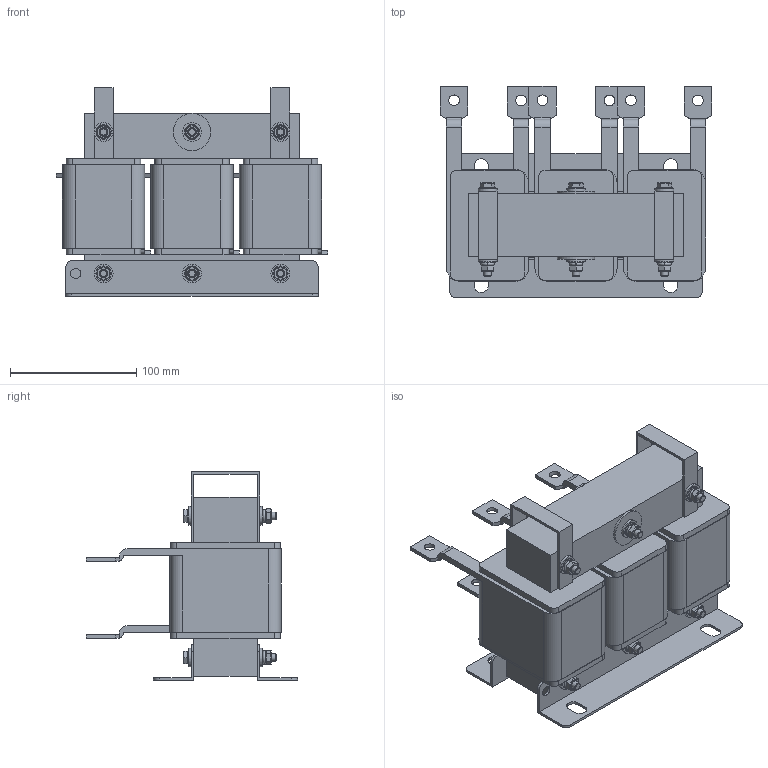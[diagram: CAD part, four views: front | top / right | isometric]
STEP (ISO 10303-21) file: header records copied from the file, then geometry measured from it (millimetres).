
FILE_DESCRIPTION(('STEP AP203'), '1');
FILE_NAME('栖闉罻 _ IMF-55_110-4', '', ('UNSPECIFIED'), ('UNSPECIFIED'), 'ASCON STEP Converter 1.6', 'ASCON Math Kernel', '');
FILE_SCHEMA(('CONFIG_CONTROL_DESIGN'));
Length unit declared in the file: millimetre
Products named in the file (13): IMF-55_110-4
Assembly tree (59 placements, depth 2):
  IMF-55_110-4
    IMF-55_110-4
    IMF-55_110-4  x2
    IMF-55_110-4  x6
    IMF-55_110-4  x3
    IMF-55_110-4
    IMF-55_110-4  x2
    IMF-55_110-4  x2
    IMF-55_110-4  x12
    IMF-55_110-4  x12
    IMF-55_110-4  x6
    IMF-55_110-4  x6
    IMF-55_110-4  x6
Bounding box: 215 x 167 x 165 mm (x, y, z)
Volume: 1923038.8 mm3; surface area: 327502.7 mm2
Topology: 59 solids, 59 shells, 680 faces, 1506 edges, 950 vertices
Faces by surface type: plane 486, cylinder 164, cone 18, torus 12
Full cylindrical faces by diameter (mm): 6 x54, 8 x2, 8.4 x6, 12 x12, 15 x12, 29.5 x2
Entity records: 6911 total; most frequent: CARTESIAN_POINT 1162, DIRECTION 914, ORIENTED_EDGE 742, EDGE_CURVE 371, AXIS2_PLACEMENT_3D 325, LINE 264, VECTOR 264, VERTEX_POINT 255
